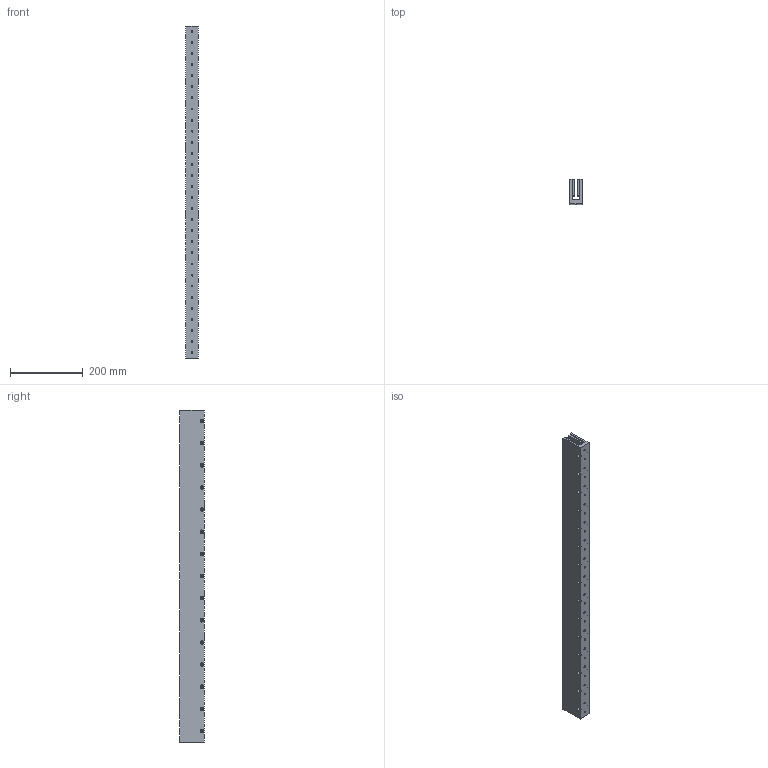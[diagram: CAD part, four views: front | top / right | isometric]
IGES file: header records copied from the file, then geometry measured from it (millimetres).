
Global section: file name: No Iges File Name specified; native system: Autodesk Inventor 2012; preprocessor: AutoDesk Inventor Iges Exporter R2012; author: je17857; date: 20120511.155321; units: inch
Bounding box: 34.29 x 67.31 x 914.15 mm (x, y, z)
Volume: 1347584.6 mm3; surface area: 352375.4 mm2
Topology: 1 solids, 1 shells, 445 faces, 1029 edges, 691 vertices
Faces by surface type: plane 355, revolution 90
